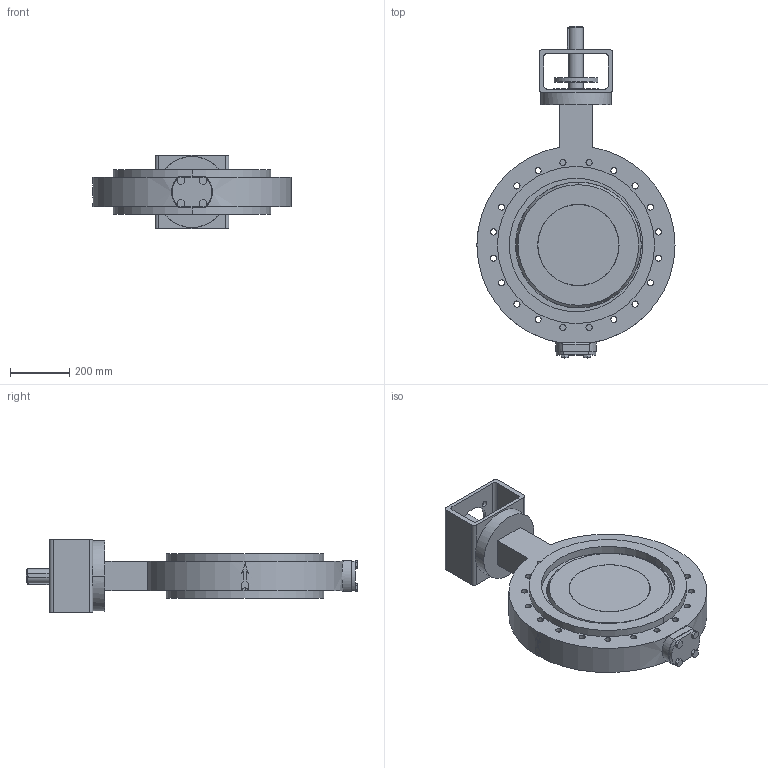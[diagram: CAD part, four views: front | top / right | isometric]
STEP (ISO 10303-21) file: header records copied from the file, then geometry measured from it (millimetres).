
FILE_DESCRIPTION( ( '' ), '1' );
FILE_NAME( 'F:/DE-SHS/TB/OR/04-Sonstiges/daten/files_3d/018_ZETRIX-PN10_freiesWellende/c000006354.stp', '2016-09-01T11:04:00', ( '' ), ( '' ), ' ', ' ', ' ' );
FILE_SCHEMA( ( 'CONFIG_CONTROL_DESIGN' ) );
Length unit declared in the file: millimetre
Products named in the file (1): 1
Bounding box: 670 x 1123.1 x 248 mm (x, y, z)
Volume: 39589355.3 mm3; surface area: 1981316.3 mm2
Topology: 1 solids, 1 shells, 261 faces, 688 edges, 451 vertices
Faces by surface type: cylinder 133, plane 120, cone 4, sphere 4
Entity records: 9218 total; most frequent: CARTESIAN_POINT 2397, DIRECTION 1468, ORIENTED_EDGE 1376, EDGE_CURVE 688, AXIS2_PLACEMENT_3D 554, VERTEX_POINT 451, LINE 360, VECTOR 360
